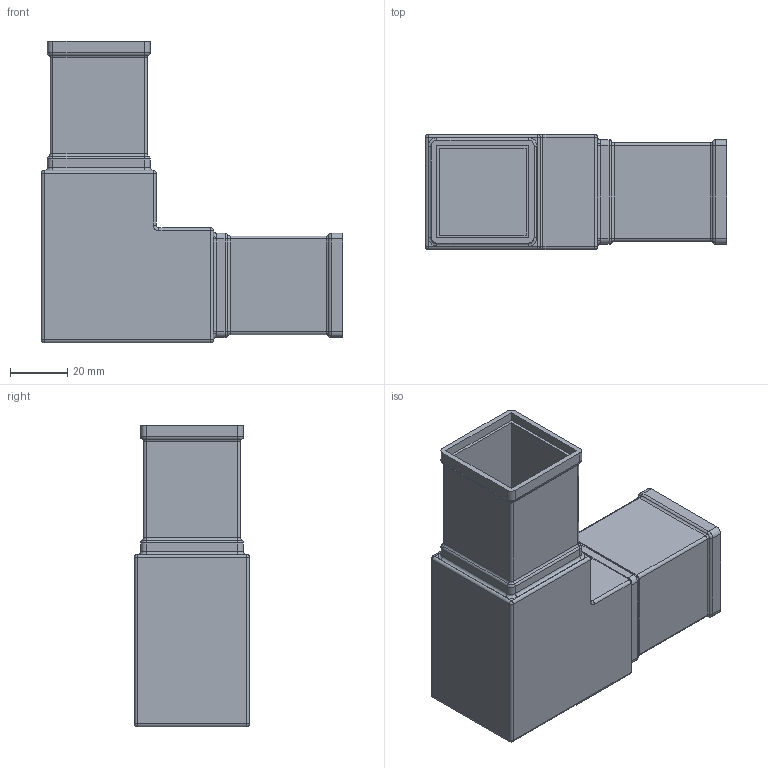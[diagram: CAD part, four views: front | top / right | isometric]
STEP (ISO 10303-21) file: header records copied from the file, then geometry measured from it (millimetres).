
FILE_DESCRIPTION (( 'STEP AP214' ), '1' );
FILE_NAME ('115.301.201.STEP', '2023-05-16T07:42:55', ( '' ), ( '' ), 'SwSTEP 2.0', 'SolidWorks 2021', '' );
FILE_SCHEMA (( 'AUTOMOTIVE_DESIGN' ));
Length unit declared in the file: millimetre
Products named in the file (1): 115.301.201
Bounding box: 105 x 40 x 105 mm (x, y, z)
Volume: 44793.4 mm3; surface area: 49592.9 mm2
Topology: 1 solids, 1 shells, 215 faces, 474 edges, 258 vertices
Faces by surface type: cylinder 82, plane 73, bspline 60
Entity records: 6393 total; most frequent: CARTESIAN_POINT 1900, DIRECTION 938, ORIENTED_EDGE 928, EDGE_CURVE 464, AXIS2_PLACEMENT_3D 344, VERTEX_POINT 258, VECTOR 250, LINE 250
